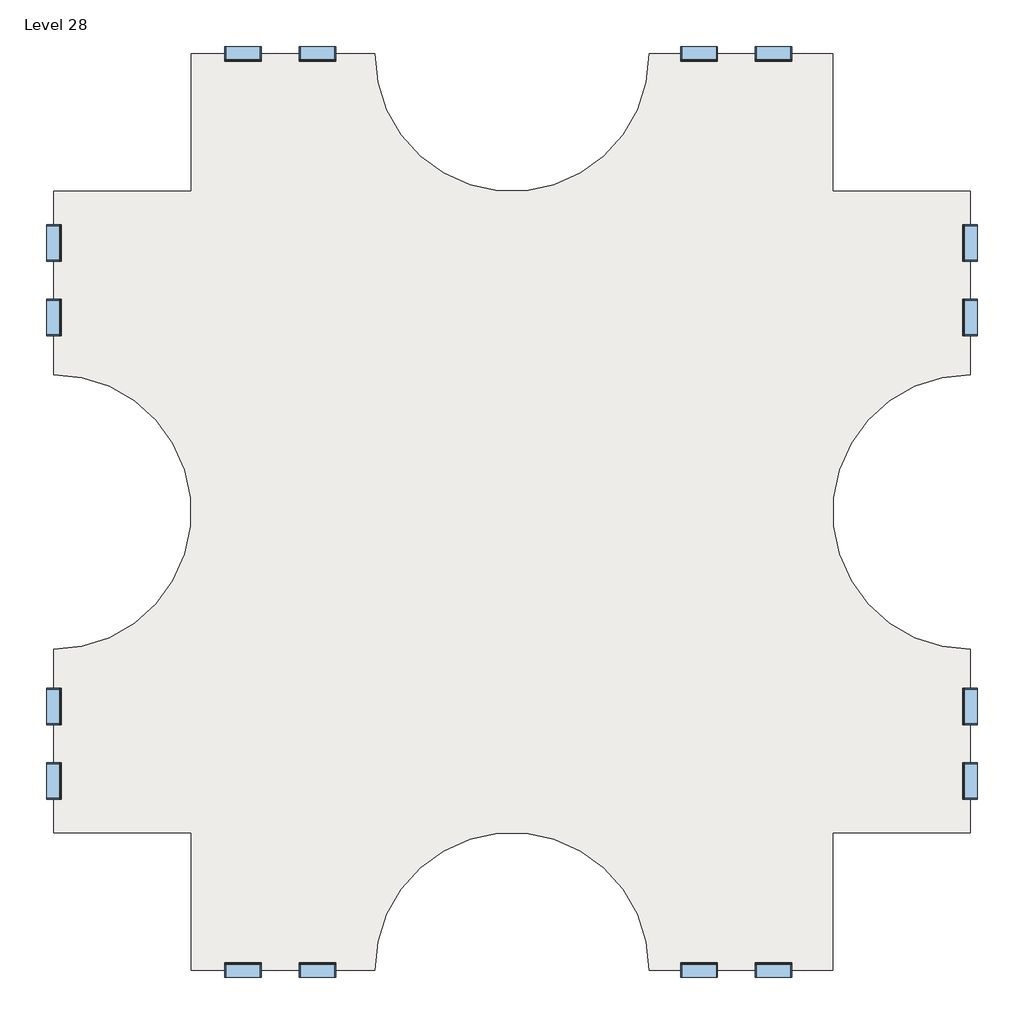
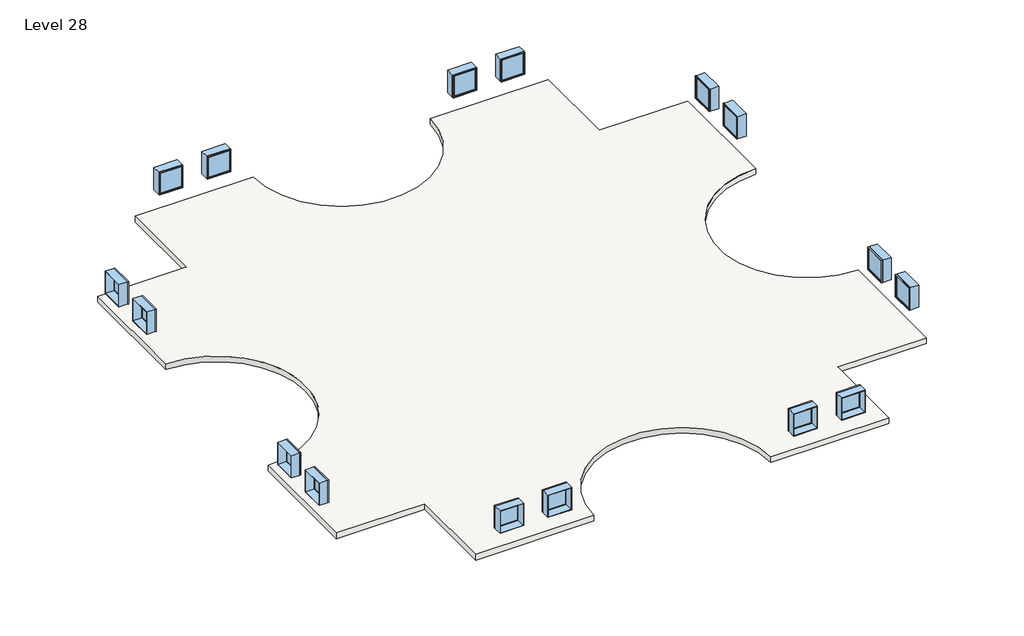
# One storey: 16 windows, 3 slabs.
"""IFC4 building model written with IfcOpenShell, lengths in millimetres."""

from ifc_helpers import new_model, si_unit, point, frame, frame_2d, origin, place, context, project, spatial, polyline, circle_curve, trimmed, segment, composite_curve, outline, extrude, transform, mapped, element, save
from components import window_d0035ecf, window_d434eb62

model = new_model("IFC4")

# Units and contexts
model_context = context("Model", 3, world=origin())
ifc_project = project(units=[si_unit("LENGTHUNIT", "METRE", prefix="MILLI")], contexts=[model_context])

# Site, building, storey
site = spatial("IfcSite", under=ifc_project)
building = spatial("IfcBuilding", under=site)
storey = spatial("IfcBuildingStorey", under=building, Name="Level 28", Elevation=82296.0)

# Slabs
placement = place(None, origin())
element("IfcSlab", 1, ObjectType="Generic - 12\"", at=placement, inside=storey, context=model_context, shape_type="SweptSolid", body=[
    extrude(outline(composite_curve([segment(polyline([(-7150.3629456, 4479.6634547), (-7150.3629456, 9051.6634547), (-1054.3629456, 9051.6634547)]), True, "CONTINUOUS"), segment(trimmed(circle_curve(frame_2d((3517.6370544, 9051.6634547)), 4572.0), [point((-1054.3629456, 9051.6634547))], [point((8089.6370544, 9051.6634547))], True, "CARTESIAN"), True, "CONTINUOUS"), segment(polyline([(8089.6370544, 9051.6634547), (14185.6370544, 9051.6634547), (14185.6370544, 4479.6634547), (18757.6370544, 4479.6634547), (18757.6370544, -1616.3365453)]), True, "CONTINUOUS"), segment(trimmed(circle_curve(frame_2d((18757.6370544, -6188.3365453)), 4572.0), [point((18757.6370544, -1616.3365453))], [point((18757.6370544, -10760.3365453))], True, "CARTESIAN"), True, "CONTINUOUS"), segment(polyline([(18757.6370544, -10760.3365453), (18757.6370544, -16856.3365453), (14185.6370544, -16856.3365453), (14185.6370544, -21428.3365453), (8089.6370544, -21428.3365453)]), True, "CONTINUOUS"), segment(trimmed(circle_curve(frame_2d((3517.6370544, -21428.3365453)), 4572.0), [point((8089.6370544, -21428.3365453))], [point((-1054.3629456, -21428.3365453))], True, "CARTESIAN"), True, "CONTINUOUS"), segment(polyline([(-1054.3629456, -21428.3365453), (-7150.3629456, -21428.3365453), (-7150.3629456, -16856.3365453), (-11722.3629456, -16856.3365453), (-11722.3629456, -10760.3365453)]), True, "CONTINUOUS"), segment(trimmed(circle_curve(frame_2d((-11722.3629456, -6188.3365453)), 4572.0), [point((-11722.3629456, -10760.3365453))], [point((-11722.3629456, -1616.3365453))], True, "CARTESIAN"), True, "CONTINUOUS"), segment(polyline([(-11722.3629456, -1616.3365453), (-11722.3629456, 4479.6634547), (-7150.3629456, 4479.6634547)]), True, "CONTINUOUS")], self_intersect=False)), frame((0.0, 0.0, 81991.2), z_axis=(0.0, 0.0, 1.0), x_axis=(1.0, 0.0, 0.0)), (0.0, 0.0, 1.0), 304.8),
])
element("IfcSlab", 2, ObjectType="Generic - 12\"", at=placement, inside=storey, context=model_context, shape_type="SweptSolid", body=[
    extrude(outline(composite_curve([segment(polyline([(-7150.3629456, 4479.6634547), (-7150.3629456, 9051.6634547), (-1054.3629456, 9051.6634547)]), True, "CONTINUOUS"), segment(trimmed(circle_curve(frame_2d((3517.6370544, 9051.6634547)), 4572.0), [point((-1054.3629456, 9051.6634547))], [point((8089.6370544, 9051.6634547))], True, "CARTESIAN"), True, "CONTINUOUS"), segment(polyline([(8089.6370544, 9051.6634547), (14185.6370544, 9051.6634547), (14185.6370544, 4479.6634547), (18757.6370544, 4479.6634547), (18757.6370544, -1616.3365453)]), True, "CONTINUOUS"), segment(trimmed(circle_curve(frame_2d((18757.6370544, -6188.3365453)), 4572.0), [point((18757.6370544, -1616.3365453))], [point((18757.6370544, -10760.3365453))], True, "CARTESIAN"), True, "CONTINUOUS"), segment(polyline([(18757.6370544, -10760.3365453), (18757.6370544, -16856.3365453), (14185.6370544, -16856.3365453), (14185.6370544, -21428.3365453), (8089.6370544, -21428.3365453)]), True, "CONTINUOUS"), segment(trimmed(circle_curve(frame_2d((3517.6370544, -21428.3365453)), 4572.0), [point((8089.6370544, -21428.3365453))], [point((-1054.3629456, -21428.3365453))], True, "CARTESIAN"), True, "CONTINUOUS"), segment(polyline([(-1054.3629456, -21428.3365453), (-7150.3629456, -21428.3365453), (-7150.3629456, -16856.3365453), (-11722.3629456, -16856.3365453), (-11722.3629456, -10760.3365453)]), True, "CONTINUOUS"), segment(trimmed(circle_curve(frame_2d((-11722.3629456, -6188.3365453)), 4572.0), [point((-11722.3629456, -10760.3365453))], [point((-11722.3629456, -1616.3365453))], True, "CARTESIAN"), True, "CONTINUOUS"), segment(polyline([(-11722.3629456, -1616.3365453), (-11722.3629456, 4479.6634547), (-7150.3629456, 4479.6634547)]), True, "CONTINUOUS")], self_intersect=False)), frame((0.0, 0.0, 81991.2), z_axis=(0.0, 0.0, 1.0), x_axis=(1.0, 0.0, 0.0)), (0.0, 0.0, 1.0), 304.8),
])
element("IfcSlab", 3, ObjectType="Generic - 12\"", at=placement, inside=storey, context=model_context, shape_type="SweptSolid", body=[
    extrude(outline(composite_curve([segment(polyline([(-7150.3629456, 4479.6634547), (-7150.3629456, 9051.6634547), (-1054.3629456, 9051.6634547)]), True, "CONTINUOUS"), segment(trimmed(circle_curve(frame_2d((3517.6370544, 9051.6634547)), 4572.0), [point((-1054.3629456, 9051.6634547))], [point((8089.6370544, 9051.6634547))], True, "CARTESIAN"), True, "CONTINUOUS"), segment(polyline([(8089.6370544, 9051.6634547), (14185.6370544, 9051.6634547), (14185.6370544, 4479.6634547), (18757.6370544, 4479.6634547), (18757.6370544, -1616.3365453)]), True, "CONTINUOUS"), segment(trimmed(circle_curve(frame_2d((18757.6370544, -6188.3365453)), 4572.0), [point((18757.6370544, -1616.3365453))], [point((18757.6370544, -10760.3365453))], True, "CARTESIAN"), True, "CONTINUOUS"), segment(polyline([(18757.6370544, -10760.3365453), (18757.6370544, -16856.3365453), (14185.6370544, -16856.3365453), (14185.6370544, -21428.3365453), (8089.6370544, -21428.3365453)]), True, "CONTINUOUS"), segment(trimmed(circle_curve(frame_2d((3517.6370544, -21428.3365453)), 4572.0), [point((8089.6370544, -21428.3365453))], [point((-1054.3629456, -21428.3365453))], True, "CARTESIAN"), True, "CONTINUOUS"), segment(polyline([(-1054.3629456, -21428.3365453), (-7150.3629456, -21428.3365453), (-7150.3629456, -16856.3365453), (-11722.3629456, -16856.3365453), (-11722.3629456, -10760.3365453)]), True, "CONTINUOUS"), segment(trimmed(circle_curve(frame_2d((-11722.3629456, -6188.3365453)), 4572.0), [point((-11722.3629456, -10760.3365453))], [point((-11722.3629456, -1616.3365453))], True, "CARTESIAN"), True, "CONTINUOUS"), segment(polyline([(-11722.3629456, -1616.3365453), (-11722.3629456, 4479.6634547), (-7150.3629456, 4479.6634547)]), True, "CONTINUOUS")], self_intersect=False)), frame((0.0, 0.0, 81991.2), z_axis=(0.0, 0.0, 1.0), x_axis=(1.0, 0.0, 0.0)), (0.0, 0.0, 1.0), 304.8),
])

# Windows
window_shape = window_d0035ecf(model_context)
element("IfcWindow", 4, ObjectType="Fixed : 48\" x 48\"", at=placement, inside=storey, context=model_context, shape_type="MappedRepresentation", body=[
    mapped(window_shape, transform((-11719.1879456, 247.3884547, 82296.0), x_axis=(0.0, -1.0, 0.0), y_axis=(1.0, 0.0, 0.0), z_axis=(0.0, 0.0, 1.0))),
])
element("IfcWindow", 5, ObjectType="Fixed : 48\" x 48\"", at=placement, inside=storey, context=model_context, shape_type="MappedRepresentation", body=[
    mapped(window_shape, transform((-5469.1993281, 9048.4884547, 82296.0), x_axis=(-1.0, 0.0, 0.0), y_axis=(0.0, -1.0, 0.0), z_axis=(0.0, 0.0, 1.0))),
])
element("IfcWindow", 6, ObjectType="Fixed : 48\" x 48\"", at=placement, inside=storey, context=model_context, shape_type="MappedRepresentation", body=[
    mapped(window_shape, transform((-11719.1879456, -15175.1729277, 82296.0), x_axis=(0.0, -1.0, 0.0), y_axis=(1.0, 0.0, 0.0), z_axis=(0.0, 0.0, 1.0))),
])
element("IfcWindow", 7, ObjectType="Fixed : 48\" x 48\"", at=placement, inside=storey, context=model_context, shape_type="MappedRepresentation", body=[
    mapped(window_shape, transform((-2918.0879456, -21425.1615453, 82296.0), x_axis=(1.0, 0.0, 0.0), y_axis=(0.0, 1.0, 0.0), z_axis=(0.0, 0.0, 1.0))),
])
element("IfcWindow", 8, ObjectType="Fixed : 48\" x 48\"", at=placement, inside=storey, context=model_context, shape_type="MappedRepresentation", body=[
    mapped(window_shape, transform((18754.4620544, 2798.4998372, 82296.0), x_axis=(0.0, 1.0, 0.0), y_axis=(-1.0, 0.0, 0.0), z_axis=(0.0, 0.0, 1.0))),
])
element("IfcWindow", 9, ObjectType="Fixed : 48\" x 48\"", at=placement, inside=storey, context=model_context, shape_type="MappedRepresentation", body=[
    mapped(window_shape, transform((9705.7120544, 9048.4884547, 82296.0), x_axis=(-1.0, 0.0, 0.0), y_axis=(0.0, -1.0, 0.0), z_axis=(0.0, 0.0, 1.0))),
])
element("IfcWindow", 10, ObjectType="Fixed : 48\" x 48\"", at=placement, inside=storey, context=model_context, shape_type="MappedRepresentation", body=[
    mapped(window_shape, transform((18754.4620544, -12624.0615453, 82296.0), x_axis=(0.0, 1.0, 0.0), y_axis=(-1.0, 0.0, 0.0), z_axis=(0.0, 0.0, 1.0))),
])
element("IfcWindow", 11, ObjectType="Fixed : 48\" x 48\"", at=placement, inside=storey, context=model_context, shape_type="MappedRepresentation", body=[
    mapped(window_shape, transform((12256.8234368, -21425.1615453, 82296.0), x_axis=(1.0, 0.0, 0.0), y_axis=(0.0, 1.0, 0.0), z_axis=(0.0, 0.0, 1.0))),
])
window_2_shape = window_d434eb62(model_context)
element("IfcWindow", 12, ObjectType="Fixed : 48\" x 48\"", at=placement, inside=storey, context=model_context, shape_type="MappedRepresentation", body=[
    mapped(window_2_shape, transform((-11719.1879456, 2798.4998372, 82296.0), x_axis=(0.0, 1.0, 0.0), y_axis=(-1.0, 0.0, 0.0), z_axis=(0.0, 0.0, 1.0))),
])
element("IfcWindow", 13, ObjectType="Fixed : 48\" x 48\"", at=placement, inside=storey, context=model_context, shape_type="MappedRepresentation", body=[
    mapped(window_2_shape, transform((-2918.0879456, 9048.4884547, 82296.0), x_axis=(1.0, 0.0, 0.0), y_axis=(0.0, 1.0, 0.0), z_axis=(0.0, 0.0, 1.0))),
])
element("IfcWindow", 14, ObjectType="Fixed : 48\" x 48\"", at=placement, inside=storey, context=model_context, shape_type="MappedRepresentation", body=[
    mapped(window_2_shape, transform((-11719.1879456, -12624.0615453, 82296.0), x_axis=(0.0, 1.0, 0.0), y_axis=(-1.0, 0.0, 0.0), z_axis=(0.0, 0.0, 1.0))),
])
element("IfcWindow", 15, ObjectType="Fixed : 48\" x 48\"", at=placement, inside=storey, context=model_context, shape_type="MappedRepresentation", body=[
    mapped(window_2_shape, transform((-5469.1993281, -21425.1615453, 82296.0), x_axis=(-1.0, 0.0, 0.0), y_axis=(0.0, -1.0, 0.0), z_axis=(0.0, 0.0, 1.0))),
])
element("IfcWindow", 16, ObjectType="Fixed : 48\" x 48\"", at=placement, inside=storey, context=model_context, shape_type="MappedRepresentation", body=[
    mapped(window_2_shape, transform((18754.4620544, 247.3884547, 82296.0), x_axis=(0.0, -1.0, 0.0), y_axis=(1.0, 0.0, 0.0), z_axis=(0.0, 0.0, 1.0))),
])
element("IfcWindow", 17, ObjectType="Fixed : 48\" x 48\"", at=placement, inside=storey, context=model_context, shape_type="MappedRepresentation", body=[
    mapped(window_2_shape, transform((12256.8234368, 9048.4884547, 82296.0), x_axis=(1.0, 0.0, 0.0), y_axis=(0.0, 1.0, 0.0), z_axis=(0.0, 0.0, 1.0))),
])
element("IfcWindow", 18, ObjectType="Fixed : 48\" x 48\"", at=placement, inside=storey, context=model_context, shape_type="MappedRepresentation", body=[
    mapped(window_2_shape, transform((18754.4620544, -15175.1729277, 82296.0), x_axis=(0.0, -1.0, 0.0), y_axis=(1.0, 0.0, 0.0), z_axis=(0.0, 0.0, 1.0))),
])
element("IfcWindow", 19, ObjectType="Fixed : 48\" x 48\"", at=placement, inside=storey, context=model_context, shape_type="MappedRepresentation", body=[
    mapped(window_2_shape, transform((9705.7120544, -21425.1615453, 82296.0), x_axis=(-1.0, 0.0, 0.0), y_axis=(0.0, -1.0, 0.0), z_axis=(0.0, 0.0, 1.0))),
])

save(model, "model.ifc")
